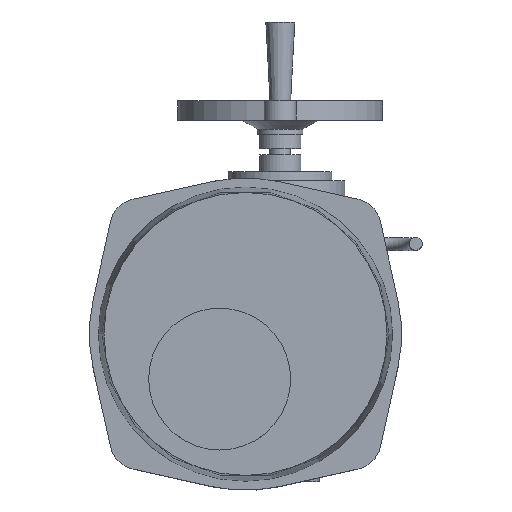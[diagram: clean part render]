
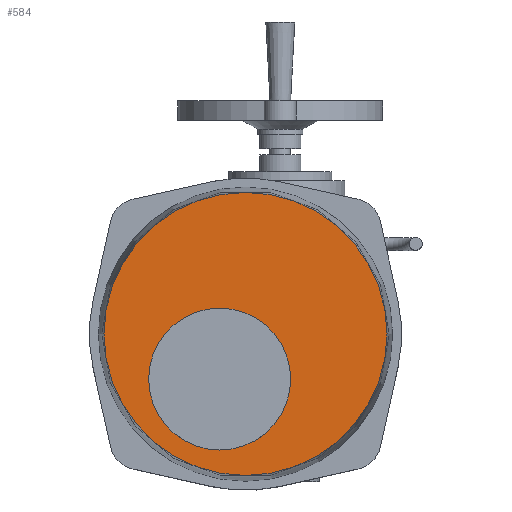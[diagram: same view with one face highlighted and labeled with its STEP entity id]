
A CAD part, top view. The second image highlights one B-rep face of the part: STEP entity #584.
In plain terms, the highlighted planar face has unit normal (0, 0, 1).
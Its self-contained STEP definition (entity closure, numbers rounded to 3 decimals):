
#584=ADVANCED_FACE('',(#1349,#1351),#1353,.T.);
#1349=FACE_BOUND('',#1350,.T.);
#1350=EDGE_LOOP('',(#1833));
#1351=FACE_BOUND('',#1352,.T.);
#1352=EDGE_LOOP('',(#1834));
#1353=PLANE('',#1354);
#1354=AXIS2_PLACEMENT_3D('',#1355,#1356,#1357);
#1355=CARTESIAN_POINT('',(0.,0.,160.));
#1356=DIRECTION('',(0.,0.,1.));
#1357=DIRECTION('',(-1.,0.,0.));
#1833=ORIENTED_EDGE('',*,*,#2076,.T.);
#1834=ORIENTED_EDGE('',*,*,#2078,.F.);
#2076=EDGE_CURVE('',#2338,#2338,#2339,.T.);
#2078=EDGE_CURVE('',#2342,#2342,#2343,.T.);
#2338=VERTEX_POINT('',#3481);
#2339=CIRCLE('',#3482,109.703);
#2342=VERTEX_POINT('',#3491);
#2343=CIRCLE('',#3492,55.);
#3481=CARTESIAN_POINT('',(-109.703,0.,160.));
#3482=AXIS2_PLACEMENT_3D('',#3483,#3484,#3485);
#3483=CARTESIAN_POINT('',(0.,0.,160.));
#3484=DIRECTION('',(0.,0.,1.));
#3485=DIRECTION('',(-1.,0.,0.));
#3491=CARTESIAN_POINT('',(-75.,-35.,160.));
#3492=AXIS2_PLACEMENT_3D('',#3493,#3494,#3495);
#3493=CARTESIAN_POINT('',(-20.,-35.,160.));
#3494=DIRECTION('',(0.,0.,1.));
#3495=DIRECTION('',(-1.,0.,0.));
